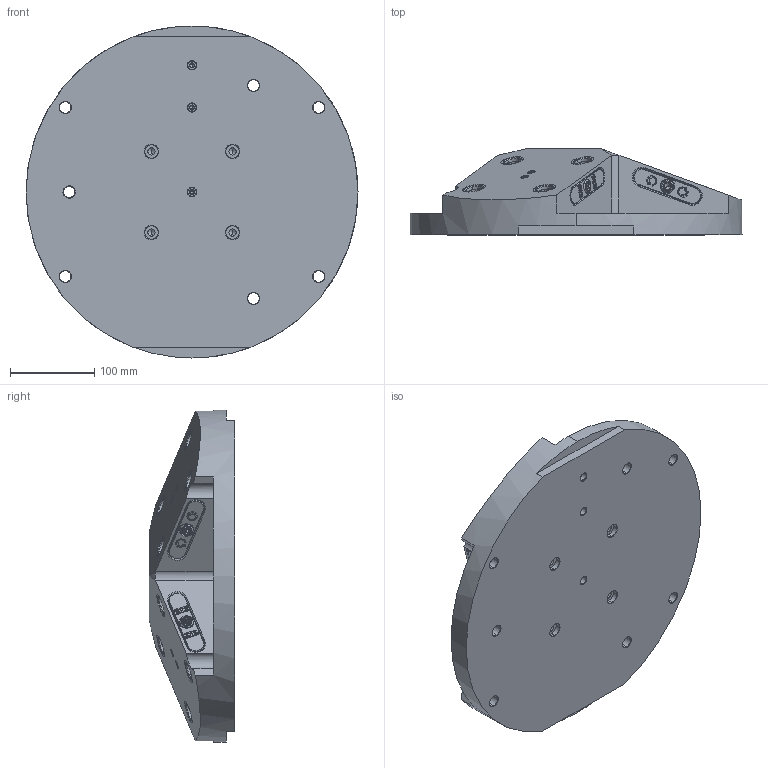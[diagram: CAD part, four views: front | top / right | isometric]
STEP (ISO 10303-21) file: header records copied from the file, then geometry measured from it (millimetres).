
FILE_DESCRIPTION (( 'STEP AP203' ), '1' );
FILE_NAME ('RL96A-P320 REV B.STEP', '2024-02-23T00:05:18', ( '' ), ( '' ), 'SwSTEP 2.0', 'SolidWorks 2021', '' );
FILE_SCHEMA (( 'CONFIG_CONTROL_DESIGN' ));
Length unit declared in the file: inch
Products named in the file (7): SB54_FINISHED PART; RL96-3_PLATING; RL96A-P320 REV B; RL96-2R_PLATING; RL96-2L; RL96-1P320A_FINISHED PART ; HW27X20.DB_PLATING
Assembly tree (28 placements, depth 2):
  RL96A-P320 REV B
    RL96-1P320A_FINISHED PART 
    RL96-2L  x3
    RL96-2R_PLATING  x3
    RL96-3_PLATING  x3
    HW27X20.DB_PLATING  x12
    SB54_FINISHED PART  x6
Bounding box: 393 x 101.6 x 393 mm (x, y, z)
Volume: 6557580 mm3; surface area: 510743.2 mm2
Topology: 28 solids, 28 shells, 2912 faces, 7315 edges, 4664 vertices
Faces by surface type: plane 1534, cylinder 584, bspline 407, cone 279, torus 108
Entity records: 47819 total; most frequent: CARTESIAN_POINT 17252, ORIENTED_EDGE 6178, DIRECTION 5790, EDGE_CURVE 3089, AXIS2_PLACEMENT_3D 2030, VERTEX_POINT 1988, LINE 1730, VECTOR 1730
